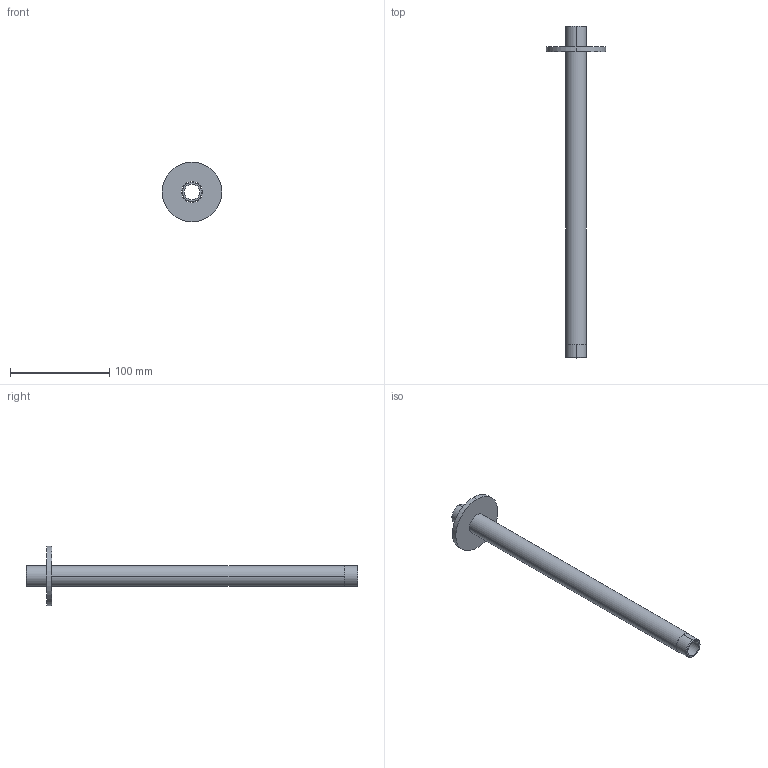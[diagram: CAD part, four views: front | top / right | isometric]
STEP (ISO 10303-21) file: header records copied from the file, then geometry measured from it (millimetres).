
FILE_DESCRIPTION((''),'2;1');
FILE_NAME('89940_SW0001','2023-09-21T15:34:59',('carloff'),(''),'CREO PARAMETRIC BY PTC INC, 2022014','CREO PARAMETRIC BY PTC INC, 2022014','');
FILE_SCHEMA(('CONFIG_CONTROL_DESIGN'));
Length unit declared in the file: millimetre
Products named in the file (1): 89940_SW0001
Bounding box: 60 x 335 x 60 mm (x, y, z)
Volume: 60404.9 mm3; surface area: 45330.8 mm2
Topology: 2 solids, 2 shells, 22 faces, 48 edges, 32 vertices
Faces by surface type: cylinder 12, plane 6, cone 4
Entity records: 668 total; most frequent: DIRECTION 124, CARTESIAN_POINT 102, ORIENTED_EDGE 96, AXIS2_PLACEMENT_3D 54, EDGE_CURVE 48, VERTEX_POINT 32, CIRCLE 32, EDGE_LOOP 28
